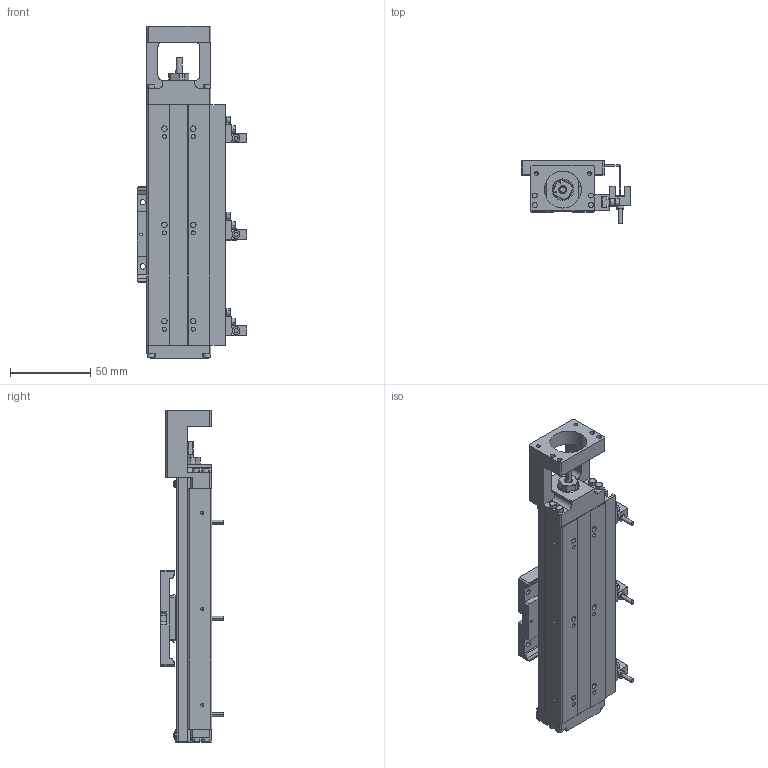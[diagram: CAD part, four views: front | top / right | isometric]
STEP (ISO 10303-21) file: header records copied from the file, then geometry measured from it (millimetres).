
FILE_DESCRIPTION (( 'STEP AP203' ), '1' );
FILE_NAME ('GKAC2040-80-12N-P2-CPXXX_defeature-網站用圖.STEP', '2023-04-19T06:28:13', ( '' ), ( '' ), 'SwSTEP 2.0', 'SolidWorks 2019', '' );
FILE_SCHEMA (( 'CONFIG_CONTROL_DESIGN' ));
Length unit declared in the file: millimetre
Products named in the file (3): Group1^GKAC2040-80-12N-P2-CPXXX_defeature-網站用圖_GMT; GKAC2040-80-12N-P2-CPXXX_defeature-網站用圖; Group2^GKAC2040-80-12N-P2-CPXXX_defeature-網站用圖_GMT
Assembly tree (2 placements, depth 2):
  GKAC2040-80-12N-P2-CPXXX_defeature-網站用圖
    Group1^GKAC2040-80-12N-P2-CPXXX_defeature-網站用圖_GMT
    Group2^GKAC2040-80-12N-P2-CPXXX_defeature-網站用圖_GMT
Bounding box: 68.4 x 39.1 x 207 mm (x, y, z)
Volume: 154068.8 mm3; surface area: 109263.7 mm2
Topology: 48 solids, 56 shells, 2908 faces, 7423 edges, 4655 vertices
Faces by surface type: plane 993, cylinder 909, cone 755, torus 177, sphere 72, bspline 2
Entity records: 88864 total; most frequent: DIRECTION 16461, CARTESIAN_POINT 16274, ORIENTED_EDGE 14610, EDGE_CURVE 7305, AXIS2_PLACEMENT_3D 6562, VERTEX_POINT 4631, CIRCLE 3651, LINE 3337
